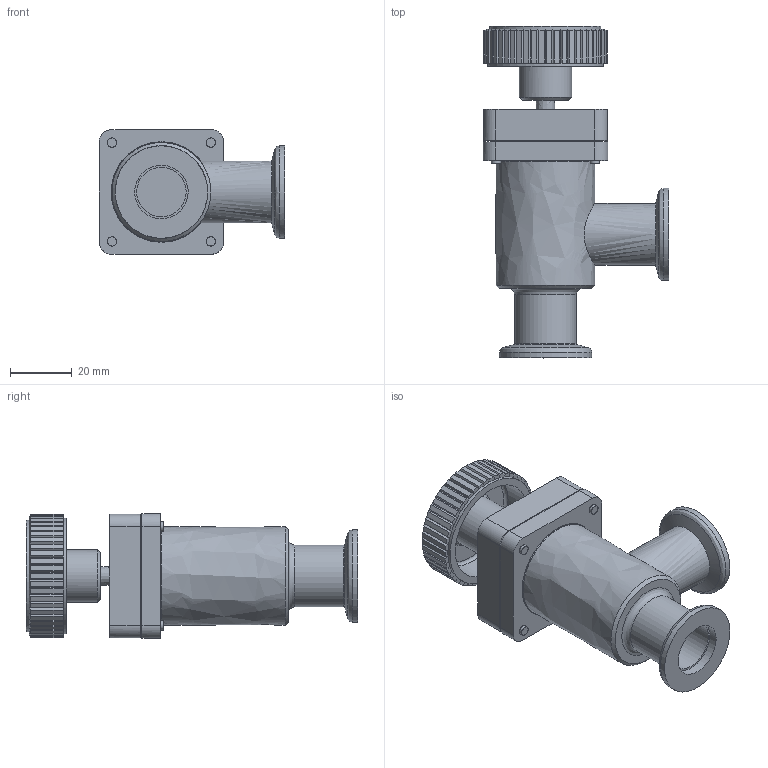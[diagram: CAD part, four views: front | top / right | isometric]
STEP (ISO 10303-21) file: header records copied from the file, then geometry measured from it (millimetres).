
FILE_DESCRIPTION((''),'2;1');
FILE_NAME('C:\TEMP\IDEAS\262143.stp','2006-09-19T12:33:00',('User'),( 'SDRC'),'I-DEAS Master Series 9','UNIX','Yes');
FILE_SCHEMA(('CONFIG_CONTROL_DESIGN'));
Length unit declared in the file: millimetre
Assembly tree (13 placements, depth 0):
Bounding box: 60.2 x 107.4 x 40.4 mm (x, y, z)
Volume: 51198.3 mm3; surface area: 38258 mm2
Topology: 12 solids, 12 shells, 435 faces, 1093 edges, 714 vertices
Faces by surface type: bspline 435
Entity records: 15234 total; most frequent: CARTESIAN_POINT 7778, ORIENTED_EDGE 2042, EDGE_CURVE 1021, VERTEX_POINT 666, EDGE_LOOP 453, FACE_OUTER_BOUND 399, ADVANCED_FACE 399, QUASI_UNIFORM_CURVE 327
